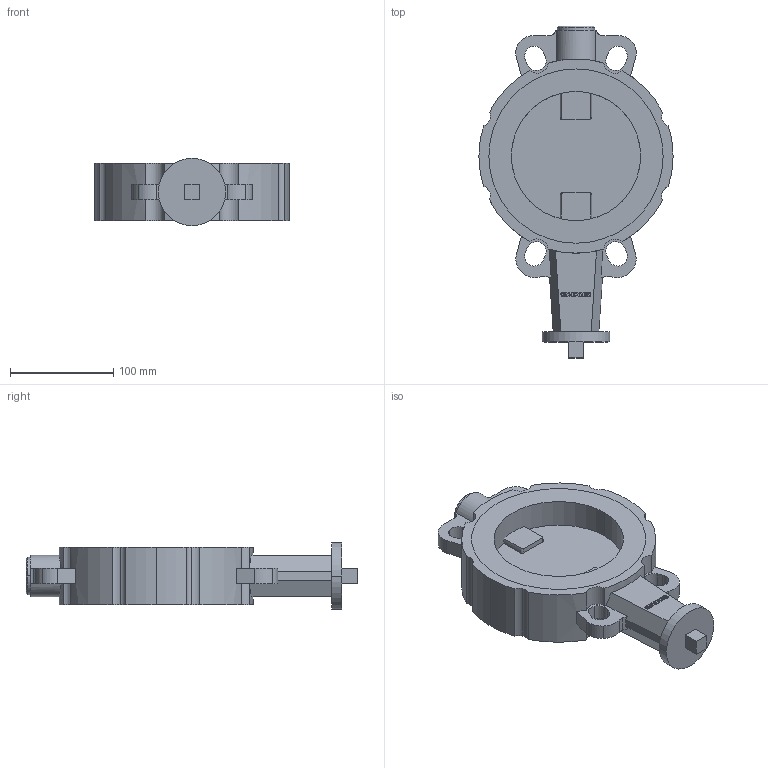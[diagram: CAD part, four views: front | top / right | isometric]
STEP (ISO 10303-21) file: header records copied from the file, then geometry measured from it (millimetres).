
FILE_DESCRIPTION((''),'2;1');
FILE_NAME('KL000015.dwg.stp','2006-10-04T11:30:42',(''),(''),'Mechanical Desktop 2006','Mechanical Desktop 2006',', , ');
FILE_SCHEMA(('AUTOMOTIVE_DESIGN { 1 2 10303 214 0 1 1 1 }'));
Length unit declared in the file: millimetre
Products named in the file (1): Product
Bounding box: 188 x 321.5 x 65 mm (x, y, z)
Volume: 1723921.8 mm3; surface area: 225076.5 mm2
Topology: 20 solids, 20 shells, 474 faces, 1297 edges, 863 vertices
Faces by surface type: cylinder 234, plane 191, bspline 39, cone 6, torus 4
Entity records: 15909 total; most frequent: CARTESIAN_POINT 3474, DIRECTION 2666, ORIENTED_EDGE 2594, EDGE_CURVE 1297, AXIS2_PLACEMENT_3D 963, VERTEX_POINT 863, VECTOR 740, LINE 740
